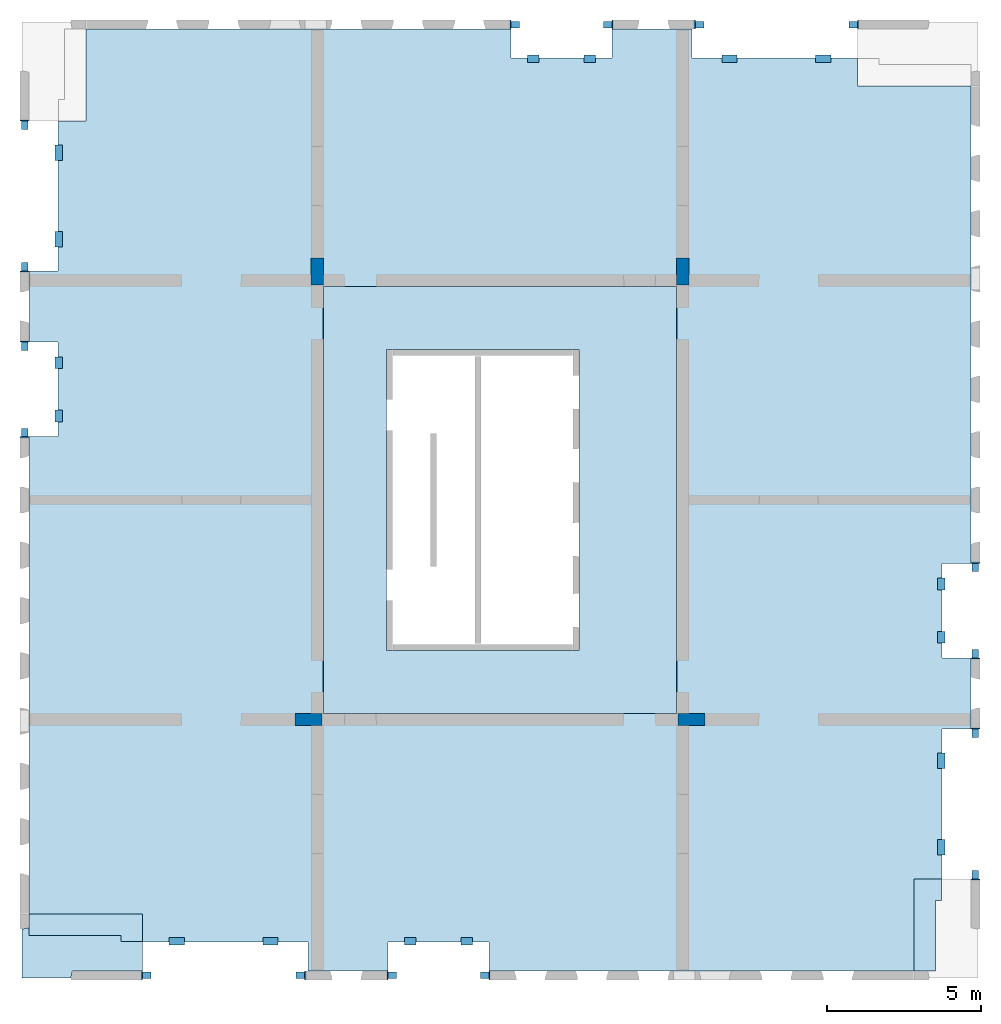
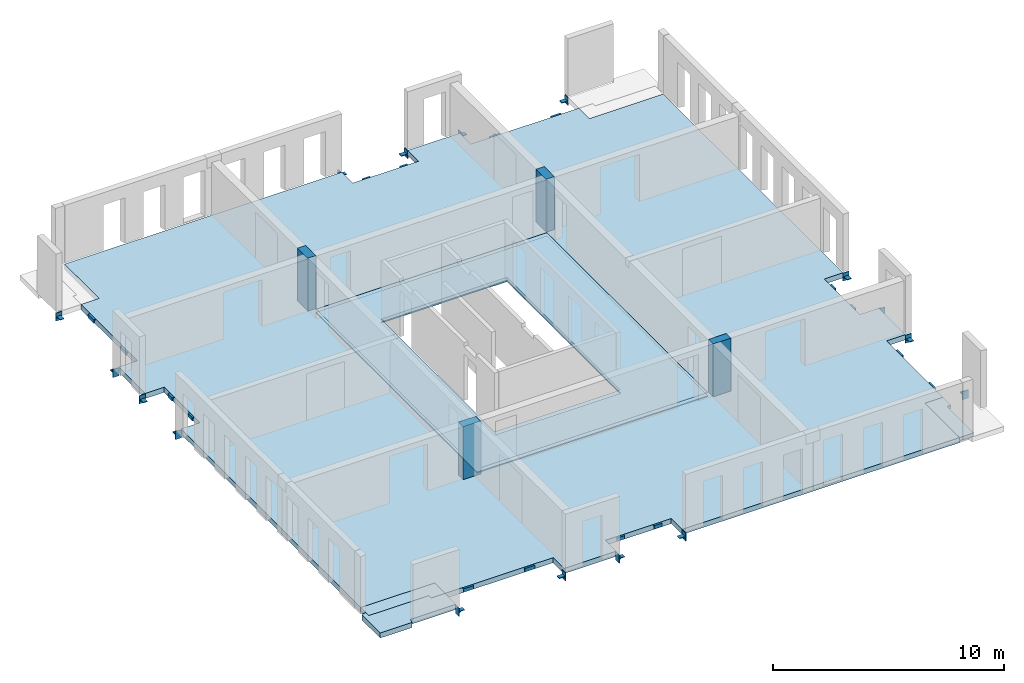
# One storey, part 1 of 4: 32 beams, 6 slabs, 4 columns, 3 openings.
"""IFC2X3 building model written with IfcOpenShell, lengths in millimetres."""

from ifc_helpers import new_model, entity, si_unit, converted_unit, derived_unit, direction, frame, frame_2d, origin, origin_2d_with_axis, place, context, subcontext, project, spatial, polyline, rectangle, outline, extrude, source, transform, mapped, material, layer, layer_set, layer_usage, type_object, type_shapes, element, save


model = new_model("IFC2X3")

# Units and contexts
model_context = context("Model", 3, precision=0.01, world=origin(), true_north=direction((6.12303176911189e-17, 1.0)))
body_context = subcontext(model_context, "Body", "Model", "MODEL_VIEW")
ifc_project = project(units=[si_unit("LENGTHUNIT", "METRE", prefix="MILLI"), si_unit("AREAUNIT", "SQUARE_METRE"), si_unit("VOLUMEUNIT", "CUBIC_METRE"), converted_unit("PLANEANGLEUNIT", "DEGREE", entity("IfcRatioMeasure", 0.0174532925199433), si_unit("PLANEANGLEUNIT", "RADIAN"), dimensions=[0, 0, 0, 0, 0, 0, 0]), si_unit("MASSUNIT", "GRAM", prefix="KILO"), derived_unit("MASSDENSITYUNIT", [(si_unit("MASSUNIT", "GRAM", prefix="KILO"), 1), (si_unit("LENGTHUNIT", "METRE"), -3)]), si_unit("TIMEUNIT", "SECOND"), si_unit("FREQUENCYUNIT", "HERTZ"), si_unit("THERMODYNAMICTEMPERATUREUNIT", "DEGREE_CELSIUS"), derived_unit("THERMALTRANSMITTANCEUNIT", [(si_unit("MASSUNIT", "GRAM", prefix="KILO"), 1), (si_unit("THERMODYNAMICTEMPERATUREUNIT", "KELVIN"), -1), (si_unit("TIMEUNIT", "SECOND"), -3)]), derived_unit("VOLUMETRICFLOWRATEUNIT", [(si_unit("LENGTHUNIT", "METRE"), 3), (si_unit("TIMEUNIT", "SECOND"), -1)]), si_unit("ELECTRICCURRENTUNIT", "AMPERE"), si_unit("ELECTRICVOLTAGEUNIT", "VOLT"), si_unit("POWERUNIT", "WATT"), si_unit("FORCEUNIT", "NEWTON", prefix="KILO"), si_unit("ILLUMINANCEUNIT", "LUX"), si_unit("LUMINOUSFLUXUNIT", "LUMEN"), si_unit("LUMINOUSINTENSITYUNIT", "CANDELA"), derived_unit("USERDEFINED", [(si_unit("MASSUNIT", "GRAM", prefix="KILO"), -1), (si_unit("LENGTHUNIT", "METRE"), -2), (si_unit("TIMEUNIT", "SECOND"), 3), (si_unit("LUMINOUSFLUXUNIT", "LUMEN"), 1)]), derived_unit("LINEARVELOCITYUNIT", [(si_unit("LENGTHUNIT", "METRE"), 1), (si_unit("TIMEUNIT", "SECOND"), -1)]), si_unit("PRESSUREUNIT", "PASCAL"), derived_unit("USERDEFINED", [(si_unit("LENGTHUNIT", "METRE"), -2), (si_unit("MASSUNIT", "GRAM", prefix="KILO"), 1), (si_unit("TIMEUNIT", "SECOND"), -2)])], contexts=[model_context])

# Site, building, storey
site_placement = place(None, origin())
site = spatial("IfcSite", under=ifc_project, at=site_placement, Name="Default", CompositionType="ELEMENT")
building_placement = place(site_placement, origin())
building = spatial("IfcBuilding", under=site, at=building_placement, Name="niet gebruiken", CompositionType="ELEMENT")
storey_placement = place(building_placement, frame((0.0, 0.0, 66960.0)))
storey = spatial("IfcBuildingStorey", under=building, at=storey_placement, Name="21 eenentwintigste verdieping", CompositionType="ELEMENT", Elevation=66960.0000000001)

# Columns
ifc_material_1 = material(Name="NLRS_f2_beton ihwg")
column_type_1 = type_object("IfcColumnType", Name="400x880", PredefinedType="COLUMN", material=ifc_material_1)
shared_shape_1 = source(origin(), body_context, "Body", "SweptSolid", [
    extrude(rectangle(XDim=879.999999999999, YDim=399.999999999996, at=origin_2d_with_axis()), frame((135800.0, 24940.0, 66870.0), z_axis=(0.0, 0.0, 1.0), x_axis=(0.0, -1.0, 0.0)), (0.0, 0.0, 1.0), 2789.99999999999),
])
type_shapes(column_type_1, [shared_shape_1])
column_1_placement = place(storey_placement, frame((0.0, 0.0, -66960.0)))
element("IfcColumn", 1, at=column_1_placement, inside=storey, type_object=column_type_1, material=ifc_material_1, Name="NLRS_28.11_SCO_TLB_beton kolom ihwg_gen:400x880", ObjectType="400x880", context=body_context, shape_type="MappedRepresentation", body=[
    mapped(shared_shape_1, transform((0.0, 0.0, 0.0), scale=1.0)),
])
column_type_2 = type_object("IfcColumnType", Name="400x880", PredefinedType="COLUMN", material=ifc_material_1)
shared_shape_2 = source(origin(), body_context, "Body", "SweptSolid", [
    extrude(rectangle(XDim=879.999999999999, YDim=399.999999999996, at=origin_2d_with_axis()), frame((147700.0, 24940.0, 66870.0), z_axis=(0.0, 0.0, 1.0), x_axis=(0.0, -1.0, 0.0)), (0.0, 0.0, 1.0), 2789.99999999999),
])
type_shapes(column_type_2, [shared_shape_2])
column_2_placement = place(storey_placement, frame((0.0, 0.0, -66960.0)))
element("IfcColumn", 2, at=column_2_placement, inside=storey, type_object=column_type_2, material=ifc_material_1, Name="NLRS_28.11_SCO_TLB_beton kolom ihwg_gen:400x880", ObjectType="400x880", context=body_context, shape_type="MappedRepresentation", body=[
    mapped(shared_shape_2, transform((0.0, 0.0, 0.0), scale=1.0)),
])
column_type_3 = type_object("IfcColumnType", Name="400x880", PredefinedType="COLUMN", material=ifc_material_1)
shared_shape_3 = source(origin(), body_context, "Body", "SweptSolid", [
    extrude(rectangle(XDim=400.000000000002, YDim=880.000000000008, at=origin_2d_with_axis()), frame((135508.750788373, 10350.0, 66870.0), z_axis=(0.0, 0.0, 1.0), x_axis=(0.0, -1.0, 0.0)), (0.0, 0.0, 1.0), 2789.99999999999),
])
type_shapes(column_type_3, [shared_shape_3])
column_3_placement = place(storey_placement, frame((0.0, 0.0, -66960.0)))
element("IfcColumn", 3, at=column_3_placement, inside=storey, type_object=column_type_3, material=ifc_material_1, Name="NLRS_28.11_SCO_TLB_beton kolom ihwg_gen:400x880", ObjectType="400x880", context=body_context, shape_type="MappedRepresentation", body=[
    mapped(shared_shape_3, transform((0.0, 0.0, 0.0), scale=1.0)),
])
column_type_4 = type_object("IfcColumnType", Name="400x880", PredefinedType="COLUMN", material=ifc_material_1)
shared_shape_4 = source(origin(), body_context, "Body", "SweptSolid", [
    extrude(rectangle(XDim=400.000000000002, YDim=880.000000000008, at=origin_2d_with_axis()), frame((147990.0, 10350.0, 66870.0), z_axis=(0.0, 0.0, 1.0), x_axis=(0.0, -1.0, 0.0)), (0.0, 0.0, 1.0), 2789.99999999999),
])
type_shapes(column_type_4, [shared_shape_4])
column_4_placement = place(storey_placement, frame((0.0, 0.0, -66960.0)))
element("IfcColumn", 4, at=column_4_placement, inside=storey, type_object=column_type_4, material=ifc_material_1, Name="NLRS_28.11_SCO_TLB_beton kolom ihwg_gen:400x880", ObjectType="400x880", context=body_context, shape_type="MappedRepresentation", body=[
    mapped(shared_shape_4, transform((0.0, 0.0, 0.0), scale=1.0)),
])

# Beams
ifc_material_2 = material(Name="NLRS_h2_staal")
beam_type_1 = type_object("IfcBeamType", Name="NLRS_28.11_SF_WPB_stalen schoen 4_gen", PredefinedType="BEAM", material=ifc_material_2)
shared_shape_5 = source(origin(), body_context, "Body", "SweptSolid", [
    extrude(outline(polyline([(-69.4999999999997, -23.0), (8.49999999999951, -23.0), (30.5, -1.0), (30.5000000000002, 47.0), (-69.4999999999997, -23.0)])), frame((-105.0, -109.499999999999, -58.0), z_axis=(1.0, 0.0, 0.0), x_axis=(0.0, -1.0, 0.0)), (0.0, 0.0, 1.0), 35.0),
    extrude(outline(polyline([(-69.4999999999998, -23.0), (8.49999999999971, -23.0), (30.5, -1.0), (30.5000000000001, 47.0), (-69.4999999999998, -23.0)])), frame((70.0, -109.499999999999, -58.0), z_axis=(1.0, 0.0, 0.0), x_axis=(0.0, -1.0, 0.0)), (0.0, 0.0, 1.0), 35.0),
    extrude(rectangle(XDim=300.0, YDim=34.9999999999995, at=origin_2d_with_axis()), frame((0.0, -157.5, -230.0), z_axis=(0.0, 0.0, 1.0), x_axis=(-1.0, 0.0, 0.0)), (0.0, 0.0, 1.0), 420.0),
    extrude(rectangle(XDim=210.000000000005, YDim=274.999999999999, at=origin_2d_with_axis()), frame((0.0, -2.4999999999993, -35.0), z_axis=(0.0, 0.0, 1.0), x_axis=(-1.0, 0.0, 0.0)), (0.0, 0.0, 1.0), 35.0),
])
type_shapes(beam_type_1, [shared_shape_5])
for number, where, z_axis, x_axis, name in (
    (5, (138250.0, 2020.0, -310.0), (0.0, 0.0, 1.0), (0.0, -1.0, 0.0), "NLRS_28.11_SF_WPB_stalen schoen 4_gen:NLRS_28.11_SF_WPB_stalen schoen 4_gen"),
    (6, (141250.0, 2020.0, -310.0), (0.0, 0.0, 1.0), (0.0, 1.0, 0.0), "NLRS_28.11_SF_WPB_stalen schoen 4_gen:NLRS_28.11_SF_WPB_stalen schoen 4_gen"),
):
    element("IfcBeam", number, at=place(storey_placement, frame(where, z_axis=z_axis, x_axis=x_axis)), inside=storey, type_object=beam_type_1, material=ifc_material_2, Name=name, ObjectType="NLRS_28.11_SF_WPB_stalen schoen 4_gen", context=body_context, shape_type="MappedRepresentation", body=[
        mapped(shared_shape_5, transform((0.0, 0.0, 0.0), scale=1.0)),
    ])
beam_1_placement = place(storey_placement, frame((157230.0, 12500.0, -310.0)))
element("IfcBeam", 7, at=beam_1_placement, inside=storey, type_object=beam_type_1, material=ifc_material_2, Name="NLRS_28.11_SF_WPB_stalen schoen 4_gen:NLRS_28.11_SF_WPB_stalen schoen 4_gen", ObjectType="NLRS_28.11_SF_WPB_stalen schoen 4_gen", context=body_context, shape_type="MappedRepresentation", body=[
    mapped(shared_shape_5, transform((0.0, 0.0, 0.0), scale=1.0)),
])
for number, where, z_axis, x_axis, name in (
    (8, (157230.0, 15300.0, -310.0), (0.0, 0.0, 1.0), (-1.0, 0.0, 0.0), "NLRS_28.11_SF_WPB_stalen schoen 4_gen:NLRS_28.11_SF_WPB_stalen schoen 4_gen"),
    (9, (145250.0, 32980.0, -310.0), (0.0, 0.0, 1.0), (0.0, 1.0, 0.0), "NLRS_28.11_SF_WPB_stalen schoen 4_gen:NLRS_28.11_SF_WPB_stalen schoen 4_gen"),
    (10, (142250.0, 32980.0, -310.0), (0.0, 0.0, 1.0), (0.0, -1.0, 0.0), "NLRS_28.11_SF_WPB_stalen schoen 4_gen:NLRS_28.11_SF_WPB_stalen schoen 4_gen"),
    (11, (126270.0, 22500.0, -310.0), (0.0, 0.0, 1.0), (-1.0, 0.0, 0.0), "NLRS_28.11_SF_WPB_stalen schoen 4_gen:NLRS_28.11_SF_WPB_stalen schoen 4_gen"),
):
    element("IfcBeam", number, at=place(storey_placement, frame(where, z_axis=z_axis, x_axis=x_axis)), inside=storey, type_object=beam_type_1, material=ifc_material_2, Name=name, ObjectType="NLRS_28.11_SF_WPB_stalen schoen 4_gen", context=body_context, shape_type="MappedRepresentation", body=[
        mapped(shared_shape_5, transform((0.0, 0.0, 0.0), scale=1.0)),
    ])
beam_2_placement = place(storey_placement, frame((126270.0, 19700.0, -310.0)))
element("IfcBeam", 12, at=beam_2_placement, inside=storey, type_object=beam_type_1, material=ifc_material_2, Name="NLRS_28.11_SF_WPB_stalen schoen 4_gen:NLRS_28.11_SF_WPB_stalen schoen 4_gen", ObjectType="NLRS_28.11_SF_WPB_stalen schoen 4_gen", context=body_context, shape_type="MappedRepresentation", body=[
    mapped(shared_shape_5, transform((0.0, 0.0, 0.0), scale=1.0)),
])
beam_type_2 = type_object("IfcBeamType", Name="NLRS_28.11_SF_WPB_stalen schoen 3_gen", PredefinedType="BEAM", material=ifc_material_2)
shared_shape_6 = source(origin(), body_context, "Body", "SweptSolid", [
    extrude(outline(polyline([(-69.4999999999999, -23.0), (8.49999999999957, -23.0), (30.5000000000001, -1.0), (30.5000000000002, 47.0), (-69.4999999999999, -23.0)])), frame((-105.0, -109.499999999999, -63.0), z_axis=(1.0, 0.0, 0.0), x_axis=(0.0, -1.0, 0.0)), (0.0, 0.0, 1.0), 40.0),
    extrude(outline(polyline([(-69.4999999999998, -23.0), (8.49999999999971, -23.0), (30.5, -1.0), (30.5000000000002, 47.0), (-69.4999999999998, -23.0)])), frame((65.0, -109.499999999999, -63.0), z_axis=(1.0, 0.0, 0.0), x_axis=(0.0, -1.0, 0.0)), (0.0, 0.0, 1.0), 40.0),
    extrude(rectangle(XDim=300.0, YDim=39.9999999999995, at=origin_2d_with_axis()), frame((0.0, -160.0, -230.0), z_axis=(0.0, 0.0, 1.0), x_axis=(-1.0, 0.0, 0.0)), (0.0, 0.0, 1.0), 420.0),
    extrude(rectangle(XDim=210.000000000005, YDim=274.999999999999, at=origin_2d_with_axis()), frame((0.0, -2.49999999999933, -40.0), z_axis=(0.0, 0.0, 1.0), x_axis=(-1.0, 0.0, 0.0)), (0.0, 0.0, 1.0), 39.9999999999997),
])
type_shapes(beam_type_2, [shared_shape_6])
for number, where, z_axis, x_axis, name in (
    (13, (135250.0, 2020.0, -310.0), (0.0, 0.0, 1.0), (0.0, 1.0, 0.0), "NLRS_28.11_SF_WPB_stalen schoen 3_gen:NLRS_28.11_SF_WPB_stalen schoen 3_gen"),
    (14, (130250.0, 2020.0, -310.0), (0.0, 0.0, 1.0), (0.0, -1.0, 0.0), "NLRS_28.11_SF_WPB_stalen schoen 3_gen:NLRS_28.11_SF_WPB_stalen schoen 3_gen"),
    (15, (157230.0, 9900.0, -310.0), (0.0, 0.0, 1.0), (-1.0, 0.0, 0.0), "NLRS_28.11_SF_WPB_stalen schoen 3_gen:NLRS_28.11_SF_WPB_stalen schoen 3_gen"),
):
    element("IfcBeam", number, at=place(storey_placement, frame(where, z_axis=z_axis, x_axis=x_axis)), inside=storey, type_object=beam_type_2, material=ifc_material_2, Name=name, ObjectType="NLRS_28.11_SF_WPB_stalen schoen 3_gen", context=body_context, shape_type="MappedRepresentation", body=[
        mapped(shared_shape_6, transform((0.0, 0.0, 0.0), scale=1.0)),
    ])
beam_3_placement = place(storey_placement, frame((157230.0, 5300.0, -310.0)))
element("IfcBeam", 16, at=beam_3_placement, inside=storey, type_object=beam_type_2, material=ifc_material_2, Name="NLRS_28.11_SF_WPB_stalen schoen 3_gen:NLRS_28.11_SF_WPB_stalen schoen 3_gen", ObjectType="NLRS_28.11_SF_WPB_stalen schoen 3_gen", context=body_context, shape_type="MappedRepresentation", body=[
    mapped(shared_shape_6, transform((0.0, 0.0, 0.0), scale=1.0)),
])
for number, where, z_axis, x_axis, name in (
    (17, (148250.0, 32980.0, -310.0), (0.0, 0.0, 1.0), (0.0, -1.0, 0.0), "NLRS_28.11_SF_WPB_stalen schoen 3_gen:NLRS_28.11_SF_WPB_stalen schoen 3_gen"),
    (18, (153250.0, 32980.0, -310.0), (0.0, 0.0, 1.0), (0.0, 1.0, 0.0), "NLRS_28.11_SF_WPB_stalen schoen 3_gen:NLRS_28.11_SF_WPB_stalen schoen 3_gen"),
):
    element("IfcBeam", number, at=place(storey_placement, frame(where, z_axis=z_axis, x_axis=x_axis)), inside=storey, type_object=beam_type_2, material=ifc_material_2, Name=name, ObjectType="NLRS_28.11_SF_WPB_stalen schoen 3_gen", context=body_context, shape_type="MappedRepresentation", body=[
        mapped(shared_shape_6, transform((0.0, 0.0, 0.0), scale=1.0)),
    ])
beam_4_placement = place(storey_placement, frame((126270.0, 25100.0, -310.0)))
element("IfcBeam", 19, at=beam_4_placement, inside=storey, type_object=beam_type_2, material=ifc_material_2, Name="NLRS_28.11_SF_WPB_stalen schoen 3_gen:NLRS_28.11_SF_WPB_stalen schoen 3_gen", ObjectType="NLRS_28.11_SF_WPB_stalen schoen 3_gen", context=body_context, shape_type="MappedRepresentation", body=[
    mapped(shared_shape_6, transform((0.0, 0.0, 0.0), scale=1.0)),
])
beam_5_placement = place(storey_placement, frame((126270.0, 29700.0, -310.0), z_axis=(0.0, 0.0, 1.0), x_axis=(-1.0, 0.0, 0.0)))
element("IfcBeam", 20, at=beam_5_placement, inside=storey, type_object=beam_type_2, material=ifc_material_2, Name="NLRS_28.11_SF_WPB_stalen schoen 3_gen:NLRS_28.11_SF_WPB_stalen schoen 3_gen", ObjectType="NLRS_28.11_SF_WPB_stalen schoen 3_gen", context=body_context, shape_type="MappedRepresentation", body=[
    mapped(shared_shape_6, transform((0.0, 0.0, 0.0), scale=1.0)),
])
beam_type_3 = type_object("IfcBeamType", Name="NLRS_28.11_SF_WPB_stalen handje 7 lang 375_gen:NLRS_28.11_SF_WPB_stalen handje 7_gen", PredefinedType="BEAM")
for number, where, z_axis, x_axis, name in (
    (21, (140862.631597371, 3015.23611279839, -93.0), (0.0, 0.0, 1.0), (-1.0, 0.0, 0.0), "NLRS_28.11_SF_WPB_stalen handje 7 lang 375_gen:NLRS_28.11_SF_WPB_stalen handje 7_gen"),
    (22, (139012.628555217, 3015.23611279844, -93.0), (0.0, 0.0, 1.0), (-1.0, 0.0, 0.0), "NLRS_28.11_SF_WPB_stalen handje 7 lang 375_gen:NLRS_28.11_SF_WPB_stalen handje 7_gen"),
):
    element("IfcBeam", number, at=place(storey_placement, frame(where, z_axis=z_axis, x_axis=x_axis)), inside=storey, type_object=beam_type_3, material=ifc_material_2, Name=name, ObjectType="NLRS_28.11_SF_WPB_stalen handje 7 lang 375_gen:NLRS_28.11_SF_WPB_stalen handje 7_gen", context=body_context, shape_type="SweptSolid", body=[
        extrude(outline(polyline([(-70.6666666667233, -153.333333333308), (-40.6666666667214, -153.333333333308), (-40.6666666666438, 61.6666666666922), (111.333333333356, 61.6666666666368), (111.333333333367, 91.6666666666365), (-70.6666666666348, 91.6666666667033), (-70.6666666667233, -153.333333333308)])), frame((0.0, -91.6666666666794, -70.6666666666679), z_axis=(1.0, 0.0, 0.0), x_axis=(0.0, 0.0, -1.0)), (0.0, 0.0, 1.0), 375.000000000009),
    ])
for number, where, z_axis, x_axis, name in (
    (23, (134525.131597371, 3015.23611279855, -93.0), (0.0, 0.0, 1.0), (-1.0, 0.0, 0.0), "NLRS_28.11_SF_WPB_stalen handje 7 lang 375_gen:NLRS_28.11_SF_WPB_stalen handje 7_gen"),
    (24, (131475.128555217, 3015.23611279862, -93.0), (0.0, 0.0, 1.0), (-1.0, 0.0, 0.0), "NLRS_28.11_SF_WPB_stalen handje 7 lang 375_gen:NLRS_28.11_SF_WPB_stalen handje 7_gen"),
):
    element("IfcBeam", number, at=place(storey_placement, frame(where, z_axis=z_axis, x_axis=x_axis)), inside=storey, type_object=beam_type_3, material=ifc_material_2, Name=name, ObjectType="NLRS_28.11_SF_WPB_stalen handje 7 lang 375_gen:NLRS_28.11_SF_WPB_stalen handje 7_gen", context=body_context, shape_type="SweptSolid", body=[
        extrude(outline(polyline([(-70.6666666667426, -153.333333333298), (-40.6666666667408, -153.333333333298), (-40.666666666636, 61.6666666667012), (111.333333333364, 61.6666666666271), (111.333333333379, 91.6666666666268), (-70.6666666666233, 91.666666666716), (-70.6666666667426, -153.333333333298)])), frame((0.0, -91.6666666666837, -70.6666666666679), z_axis=(1.0, 0.0, 0.0), x_axis=(0.0, 0.0, -1.0)), (0.0, 0.0, 1.0), 500.000000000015),
    ])
beam_6_placement = place(storey_placement, frame((156235.125015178, 9255.24886461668, -93.0), z_axis=(0.0, 0.0, 1.0), x_axis=(0.0, -1.0, 0.0)))
element("IfcBeam", 25, at=beam_6_placement, inside=storey, type_object=beam_type_3, material=ifc_material_2, Name="NLRS_28.11_SF_WPB_stalen handje 7 lang 375_gen:NLRS_28.11_SF_WPB_stalen handje 7_gen", ObjectType="NLRS_28.11_SF_WPB_stalen handje 7 lang 375_gen:NLRS_28.11_SF_WPB_stalen handje 7_gen", context=body_context, shape_type="SweptSolid", body=[
    extrude(outline(polyline([(-70.6666666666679, -153.33333333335), (-40.6666666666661, -153.33333333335), (-40.6666666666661, 61.6666666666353), (111.333333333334, 61.6666666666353), (111.333333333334, 91.6666666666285), (-70.6666666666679, 91.6666666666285), (-70.6666666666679, -153.33333333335)])), frame((0.0, -91.6666666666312, -70.6666666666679), z_axis=(1.0, 0.0, 0.0), x_axis=(0.0, 0.0, -1.0)), (0.0, 0.0, 1.0), 500.000000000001),
])
beam_7_placement = place(storey_placement, frame((156235.125015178, 6445.24582437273, -93.0), z_axis=(0.0, 0.0, 1.0), x_axis=(0.0, -1.0, 0.0)))
element("IfcBeam", 26, at=beam_7_placement, inside=storey, type_object=beam_type_3, material=ifc_material_2, Name="NLRS_28.11_SF_WPB_stalen handje 7 lang 375_gen:NLRS_28.11_SF_WPB_stalen handje 7_gen", ObjectType="NLRS_28.11_SF_WPB_stalen handje 7 lang 375_gen:NLRS_28.11_SF_WPB_stalen handje 7_gen", context=body_context, shape_type="SweptSolid", body=[
    extrude(outline(polyline([(-70.6666666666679, -153.33333333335), (-40.6666666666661, -153.33333333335), (-40.6666666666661, 61.6666666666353), (111.333333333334, 61.6666666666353), (111.333333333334, 91.6666666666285), (-70.6666666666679, 91.6666666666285), (-70.6666666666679, -153.33333333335)])), frame((0.0, -91.6666666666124, -70.6666666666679), z_axis=(1.0, 0.0, 0.0), x_axis=(0.0, 0.0, -1.0)), (0.0, 0.0, 1.0), 500.000000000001),
])
for number, where, name in (
    (27, (142637.368402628, 31984.7638872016, -93.0), "NLRS_28.11_SF_WPB_stalen handje 7 lang 375_gen:NLRS_28.11_SF_WPB_stalen handje 7_gen"),
    (28, (144487.371444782, 31984.7638872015, -93.0), "NLRS_28.11_SF_WPB_stalen handje 7 lang 375_gen:NLRS_28.11_SF_WPB_stalen handje 7_gen"),
):
    element("IfcBeam", number, at=place(storey_placement, frame(where)), inside=storey, type_object=beam_type_3, material=ifc_material_2, Name=name, ObjectType="NLRS_28.11_SF_WPB_stalen handje 7 lang 375_gen:NLRS_28.11_SF_WPB_stalen handje 7_gen", context=body_context, shape_type="SweptSolid", body=[
        extrude(outline(polyline([(-70.6666666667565, -153.333333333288), (-40.6666666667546, -153.333333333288), (-40.6666666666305, 61.6666666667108), (111.33333333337, 61.666666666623), (111.333333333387, 91.6666666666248), (-70.666666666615, 91.6666666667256), (-70.6666666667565, -153.333333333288)])), frame((0.0, -91.6666666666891, -70.6666666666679), z_axis=(1.0, 0.0, 0.0), x_axis=(0.0, 0.0, -1.0)), (0.0, 0.0, 1.0), 375.000000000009),
    ])
for number, where, name in (
    (29, (148974.868402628, 31984.7638872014, -93.0), "NLRS_28.11_SF_WPB_stalen handje 7 lang 375_gen:NLRS_28.11_SF_WPB_stalen handje 7_gen"),
    (30, (152024.871444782, 31984.7638872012, -93.0), "NLRS_28.11_SF_WPB_stalen handje 7 lang 375_gen:NLRS_28.11_SF_WPB_stalen handje 7_gen"),
):
    element("IfcBeam", number, at=place(storey_placement, frame(where)), inside=storey, type_object=beam_type_3, material=ifc_material_2, Name=name, ObjectType="NLRS_28.11_SF_WPB_stalen handje 7 lang 375_gen:NLRS_28.11_SF_WPB_stalen handje 7_gen", context=body_context, shape_type="SweptSolid", body=[
        extrude(outline(polyline([(-70.6666666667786, -153.333333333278), (-40.6666666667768, -153.333333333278), (-40.6666666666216, 61.6666666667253), (111.333333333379, 61.6666666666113), (111.3333333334, 91.6666666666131), (-70.6666666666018, 91.6666666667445), (-70.6666666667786, -153.333333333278)])), frame((0.0, -91.6666666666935, -70.6666666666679), z_axis=(1.0, 0.0, 0.0), x_axis=(0.0, 0.0, -1.0)), (0.0, 0.0, 1.0), 500.000000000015),
    ])
beam_8_placement = place(storey_placement, frame((127264.874984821, 25744.7511353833, -93.0), z_axis=(0.0, 0.0, 1.0), x_axis=(0.0, 1.0, 0.0)))
element("IfcBeam", 31, at=beam_8_placement, inside=storey, type_object=beam_type_3, material=ifc_material_2, Name="NLRS_28.11_SF_WPB_stalen handje 7 lang 375_gen:NLRS_28.11_SF_WPB_stalen handje 7_gen", ObjectType="NLRS_28.11_SF_WPB_stalen handje 7 lang 375_gen:NLRS_28.11_SF_WPB_stalen handje 7_gen", context=body_context, shape_type="SweptSolid", body=[
    extrude(outline(polyline([(-70.6666666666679, -153.333333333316), (-40.6666666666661, -153.333333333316), (-40.6666666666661, 61.6666666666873), (111.333333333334, 61.66666666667), (111.333333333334, 91.6666666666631), (-70.6666666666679, 91.6666666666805), (-70.6666666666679, -153.333333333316)])), frame((0.0, -91.6666666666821, -70.6666666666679), z_axis=(1.0, 0.0, 0.0), x_axis=(0.0, 0.0, -1.0)), (0.0, 0.0, 1.0), 500.000000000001),
])
beam_9_placement = place(storey_placement, frame((127264.874984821, 28554.7541756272, -93.0), z_axis=(0.0, 0.0, 1.0), x_axis=(0.0, 1.0, 0.0)))
element("IfcBeam", 32, at=beam_9_placement, inside=storey, type_object=beam_type_3, material=ifc_material_2, Name="NLRS_28.11_SF_WPB_stalen handje 7 lang 375_gen:NLRS_28.11_SF_WPB_stalen handje 7_gen", ObjectType="NLRS_28.11_SF_WPB_stalen handje 7 lang 375_gen:NLRS_28.11_SF_WPB_stalen handje 7_gen", context=body_context, shape_type="SweptSolid", body=[
    extrude(outline(polyline([(-70.6666666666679, -153.33333333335), (-40.6666666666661, -153.33333333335), (-40.6666666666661, 61.6666666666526), (111.333333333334, 61.6666666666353), (111.333333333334, 91.6666666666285), (-70.6666666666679, 91.6666666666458), (-70.6666666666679, -153.33333333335)])), frame((0.0, -91.6666666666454, -70.6666666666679), z_axis=(1.0, 0.0, 0.0), x_axis=(0.0, 0.0, -1.0)), (0.0, 0.0, 1.0), 500.000000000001),
])
beam_10_placement = place(storey_placement, frame((156235.0, 14952.5097115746, -93.0), z_axis=(0.0, 0.0, 1.0), x_axis=(0.0, -1.0, 0.0)))
element("IfcBeam", 33, at=beam_10_placement, inside=storey, type_object=beam_type_3, material=ifc_material_2, Name="NLRS_28.11_SF_WPB_stalen handje 7 lang 375_gen:NLRS_28.11_SF_WPB_stalen handje 7_gen", ObjectType="NLRS_28.11_SF_WPB_stalen handje 7 lang 375_gen:NLRS_28.11_SF_WPB_stalen handje 7_gen", context=body_context, shape_type="SweptSolid", body=[
    extrude(outline(polyline([(-70.6666666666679, -153.333333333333), (-40.6666666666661, -153.333333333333), (-40.6666666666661, 61.66666666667), (111.333333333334, 61.66666666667), (111.333333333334, 91.6666666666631), (-70.6666666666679, 91.6666666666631), (-70.6666666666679, -153.333333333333)])), frame((0.0, -91.6666666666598, -70.6666666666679), z_axis=(1.0, 0.0, 0.0), x_axis=(0.0, 0.0, -1.0)), (0.0, 0.0, 1.0), 375.000000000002),
])
beam_11_placement = place(storey_placement, frame((156235.0, 13222.5097115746, -93.0), z_axis=(0.0, 0.0, 1.0), x_axis=(0.0, -1.0, 0.0)))
element("IfcBeam", 34, at=beam_11_placement, inside=storey, type_object=beam_type_3, material=ifc_material_2, Name="NLRS_28.11_SF_WPB_stalen handje 7 lang 375_gen:NLRS_28.11_SF_WPB_stalen handje 7_gen", ObjectType="NLRS_28.11_SF_WPB_stalen handje 7 lang 375_gen:NLRS_28.11_SF_WPB_stalen handje 7_gen", context=body_context, shape_type="SweptSolid", body=[
    extrude(outline(polyline([(-70.6666666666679, -153.333333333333), (-40.6666666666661, -153.333333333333), (-40.6666666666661, 61.66666666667), (111.333333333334, 61.66666666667), (111.333333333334, 91.6666666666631), (-70.6666666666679, 91.6666666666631), (-70.6666666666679, -153.333333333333)])), frame((0.0, -91.6666666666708, -70.6666666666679), z_axis=(1.0, 0.0, 0.0), x_axis=(0.0, 0.0, -1.0)), (0.0, 0.0, 1.0), 375.000000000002),
])
beam_12_placement = place(storey_placement, frame((127265.0, 20047.4902884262, -93.0), z_axis=(0.0, 0.0, 1.0), x_axis=(0.0, 1.0, 0.0)))
element("IfcBeam", 35, at=beam_12_placement, inside=storey, type_object=beam_type_3, material=ifc_material_2, Name="NLRS_28.11_SF_WPB_stalen handje 7 lang 375_gen:NLRS_28.11_SF_WPB_stalen handje 7_gen", ObjectType="NLRS_28.11_SF_WPB_stalen handje 7 lang 375_gen:NLRS_28.11_SF_WPB_stalen handje 7_gen", context=body_context, shape_type="SweptSolid", body=[
    extrude(outline(polyline([(-70.6666666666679, -153.333333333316), (-40.6666666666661, -153.333333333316), (-40.6666666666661, 61.6666666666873), (111.333333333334, 61.66666666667), (111.333333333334, 91.6666666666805), (-70.6666666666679, 91.6666666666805), (-70.6666666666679, -153.333333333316)])), frame((0.0, -91.6666666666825, -70.6666666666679), z_axis=(1.0, 0.0, 0.0), x_axis=(0.0, 0.0, -1.0)), (0.0, 0.0, 1.0), 375.000000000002),
])
beam_13_placement = place(storey_placement, frame((127265.0, 21777.4902884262, -93.0), z_axis=(0.0, 0.0, 1.0), x_axis=(0.0, 1.0, 0.0)))
element("IfcBeam", 36, at=beam_13_placement, inside=storey, type_object=beam_type_3, material=ifc_material_2, Name="NLRS_28.11_SF_WPB_stalen handje 7 lang 375_gen:NLRS_28.11_SF_WPB_stalen handje 7_gen", ObjectType="NLRS_28.11_SF_WPB_stalen handje 7 lang 375_gen:NLRS_28.11_SF_WPB_stalen handje 7_gen", context=body_context, shape_type="SweptSolid", body=[
    extrude(outline(polyline([(-70.6666666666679, -153.33333333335), (-40.6666666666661, -153.33333333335), (-40.6666666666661, 61.6666666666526), (111.333333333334, 61.6666666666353), (111.333333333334, 91.6666666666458), (-70.6666666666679, 91.6666666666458), (-70.6666666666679, -153.33333333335)])), frame((0.0, -91.6666666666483, -70.6666666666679), z_axis=(1.0, 0.0, 0.0), x_axis=(0.0, 0.0, -1.0)), (0.0, 0.0, 1.0), 375.000000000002),
])

# Slabs
ifc_layer_1 = layer(ifc_material_1, 170.0)
ifc_layer_set_1 = layer_set([ifc_layer_1], Name="Floor:NLRS_23.21_FL_beton ihwg d=170_gen")
ifc_layer_usage_1 = layer_usage(ifc_layer_set_1, "AXIS3", "POSITIVE", 0.0)
slab_1_placement = place(storey_placement, origin())
element("IfcSlab", 37, at=slab_1_placement, inside=storey, material=ifc_layer_usage_1, Name="Floor:NLRS_23.21_FL_beton ihwg d=170_gen", ObjectType="Floor:NLRS_23.21_FL_beton ihwg d=170_gen", PredefinedType="FLOOR", context=body_context, shape_type="SweptSolid", body=[
    extrude(outline(polyline([(-1760.0, -533.33333333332), (1230.0, -533.33333333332), (1230.0, 366.666666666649), (530.0, 366.666666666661), (530.0, 166.666666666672), (-1760.0, 166.666666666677), (-1760.0, -533.33333333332)])), frame((155763.333333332, 3930.0, -90.0), z_axis=(0.0, 0.0, -1.0), x_axis=(0.0, 1.0, 0.0)), (0.0, 0.0, 1.0), 169.999999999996),
])
ifc_material_3 = material(Name="NLRS_f2_beton prefab")
ifc_layer_2 = layer(ifc_material_3, 270.0)
ifc_layer_set_2 = layer_set([ifc_layer_2], Name="Floor:NLRS_23.22_FL_beton prefab d=270 3D element_gen")
ifc_layer_usage_2 = layer_usage(ifc_layer_set_2, "AXIS3", "POSITIVE", 0.0)
slab_2_placement = place(storey_placement, origin())
element("IfcSlab", 38, at=slab_2_placement, inside=storey, material=ifc_layer_usage_2, Name="Floor:NLRS_23.22_FL_beton prefab d=270 3D element_gen", ObjectType="Floor:NLRS_23.22_FL_beton prefab d=270 3D element_gen", PredefinedType="LANDING", context=body_context, shape_type="SweptSolid", body=[
    extrude(outline(polyline([(-982.471394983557, -1442.47139498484), (607.67594043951, -1442.47139498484), (655.152429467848, -1209.47139498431), (1100.52860501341, -1209.47139498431), (1100.52860501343, 2480.5286050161), (-749.471394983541, 2480.5286050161), (-749.471394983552, 195.15242946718), (-982.47139498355, 147.675940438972), (-982.471394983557, -1442.47139498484)])), frame((127629.471394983, 2919.47139499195, -90.0), z_axis=(0.0, 0.0, -1.0), x_axis=(0.0, 1.0, 0.0)), (0.0, 0.0, 1.0), 269.999999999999),
])
ifc_layer_usage_3 = layer_usage(ifc_layer_set_1, "AXIS3", "POSITIVE", 0.0)
slab_3_placement = place(storey_placement, origin())
element("IfcSlab", 39, at=slab_3_placement, inside=storey, material=ifc_layer_usage_3, Name="Floor:NLRS_23.21_FL_beton ihwg d=170_gen", ObjectType="Floor:NLRS_23.21_FL_beton ihwg d=170_gen", PredefinedType="FLOOR", context=body_context, shape_type="SweptSolid", body=[
    extrude(outline(polyline([(-166.666666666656, -2226.66666666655), (533.333333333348, -2226.66666666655), (533.333333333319, 1463.33333333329), (-366.666666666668, 1463.33333333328), (-366.666666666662, 763.333333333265), (-166.666666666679, 763.333333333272), (-166.666666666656, -2226.66666666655)])), frame((128646.666666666, 3486.66666667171, -90.0), z_axis=(0.0, 0.0, -1.0), x_axis=(0.0, 1.0, 0.0)), (0.0, 0.0, 1.0), 169.999999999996),
])

# Slab, opening
ifc_layer_3 = layer(ifc_material_1, 230.0)
ifc_layer_set_3 = layer_set([ifc_layer_3], Name="Floor:NLRS_23.21_FL_vloer=230_gen")
ifc_layer_usage_4 = layer_usage(ifc_layer_set_3, "AXIS3", "POSITIVE", 0.0)
slab_4_placement = place(storey_placement, frame((136000.0, 10549.7638872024, -320.0)))
slab_4 = element("IfcSlab", 40, at=slab_4_placement, inside=storey, material=ifc_layer_usage_4, Name="Floor:NLRS_23.21_FL_vloer=230_gen", ObjectType="Floor:NLRS_23.21_FL_vloer=230_gen", PredefinedType="FLOOR", context=body_context, shape_type="SweptSolid", body=[
    extrude(rectangle(XDim=13900.2361127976, YDim=11500.0, at=frame_2d((0.0, 0.0), x_axis=(0.0, -1.0))), frame((5750.0, 6950.11805639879, 230.0), z_axis=(0.0, 0.0, -1.0), x_axis=(-1.0, 0.0, 0.0)), (0.0, 0.0, 1.0), 230.0),
])
opening_1_placement = place(slab_4_placement, frame((5190.0, 6950.23611279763, 230.0)))
element("IfcOpeningElement", 41, at=opening_1_placement, cuts=slab_4, Name="Floor:NLRS_23.21_FL_vloer=230_gen:2", ObjectType="Opening", context=body_context, shape_type="SweptSolid", body=[
    extrude(rectangle(XDim=9800.0, YDim=6279.99999999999, at=origin_2d_with_axis()), frame((0.0, 0.0, 0.0), z_axis=(0.0, 0.0, -1.0), x_axis=(0.0, -1.0, 0.0)), (0.0, 0.0, 1.0), 230.0),
])

ifc_layer_4 = layer(ifc_material_1, 170.0)
ifc_layer_5 = layer(ifc_material_3, 100.0)
ifc_layer_set_4 = layer_set([ifc_layer_4, ifc_layer_5], Name="Floor:NLRS_23.21_FL_breedplaat d=100/270_gen")
ifc_layer_usage_5 = layer_usage(ifc_layer_set_4, "AXIS3", "POSITIVE", 0.0)
slab_5_placement = place(storey_placement, frame((126420.0, 2170.0, -360.0)))
slab_5 = element("IfcSlab", 42, at=slab_5_placement, inside=storey, material=ifc_layer_usage_5, Name="Floor:NLRS_23.21_FL_breedplaat d=100/270_gen", ObjectType="Floor:NLRS_23.21_FL_breedplaat d=100/270_gen", PredefinedType="FLOOR", context=body_context, shape_type="SweptSolid", body=[
    extrude(outline(polyline([(-360.0, 15330.0), (-360.0, 14385.0), (-3640.0, 14385.0), (-3640.0, 15330.0), (-6250.0, 15330.0), (-6250.0, 14385.0), (-11640.0, 14385.0), (-11640.0, 13480.0), (-15330.0, 13480.0), (-15330.0, -2060.0), (-14385.0, -2060.0), (-14385.0, -5140.0), (-15330.0, -5140.0), (-15330.0, -7450.0), (-14385.0, -7450.0), (-14385.0, -12340.0), (-13480.0, -12340.0), (-13480.0, -15330.0), (360.0, -15330.0), (360.0, -14385.0), (3640.0, -14385.0), (3640.0, -15330.0), (6250.0, -15330.0), (6250.0, -14385.0), (11640.0, -14385.0), (11640.0, -13480.0), (15330.0, -13480.0), (15330.0, 2060.0), (14385.0, 2060.0), (14385.0, 5140.0), (15330.0, 5140.0), (15330.0, 7450.0), (14385.0, 7450.0), (14385.0, 12340.0), (13480.0, 12340.0), (13480.0, 15330.0), (-360.0, 15330.0)])), frame((15330.0, 15330.0, 270.0), z_axis=(0.0, 0.0, -1.0), x_axis=(-1.0, 0.0, 0.0)), (0.0, 0.0, 1.0), 269.999999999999),
])
opening_2_placement = place(slab_5_placement, frame((15330.0, 15330.0, 270.0)))
element("IfcOpeningElement", 43, at=opening_2_placement, cuts=slab_5, Name="Floor:NLRS_23.21_FL_breedplaat d=100/270_gen:2", ObjectType="Opening", context=body_context, shape_type="SweptSolid", body=[
    extrude(rectangle(XDim=13899.9999999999, YDim=11500.0, at=origin_2d_with_axis()), frame((0.0, 0.0, 0.0), z_axis=(0.0, 0.0, -1.0), x_axis=(0.0, -1.0, 0.0)), (0.0, 0.0, 1.0), 269.999999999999),
])

ifc_layer_6 = layer(ifc_material_3, 60.0)
ifc_layer_set_5 = layer_set([ifc_layer_6], Name="Floor:NLRS_23.21_FL_breedplaat d=60_gen")
ifc_layer_usage_6 = layer_usage(ifc_layer_set_5, "AXIS3", "POSITIVE", 0.0)
slab_6_placement = place(storey_placement, frame((135990.0, 10540.0, -320.0)))
slab_6 = element("IfcSlab", 44, at=slab_6_placement, inside=storey, material=ifc_layer_usage_6, Name="Floor:NLRS_23.21_FL_breedplaat d=60_gen", ObjectType="Floor:NLRS_23.21_FL_breedplaat d=60_gen", PredefinedType="FLOOR", context=body_context, shape_type="SweptSolid", body=[
    extrude(rectangle(XDim=13919.9999999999, YDim=11520.0, at=frame_2d((0.0, 0.0), x_axis=(0.0, -1.0))), frame((5760.0, 6960.0, 60.0), z_axis=(0.0, 0.0, -1.0), x_axis=(-1.0, 0.0, 0.0)), (0.0, 0.0, 1.0), 60.0000000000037),
])
opening_3_placement = place(slab_6_placement, frame((5200.0, 6960.0, 60.0)))
element("IfcOpeningElement", 45, at=opening_3_placement, cuts=slab_6, Name="Floor:NLRS_23.21_FL_breedplaat d=60_gen:2", ObjectType="Opening", context=body_context, shape_type="SweptSolid", body=[
    extrude(rectangle(XDim=9820.0, YDim=6299.99999999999, at=origin_2d_with_axis()), frame((0.0, 0.0, 0.0), z_axis=(0.0, 0.0, -1.0), x_axis=(0.0, -1.0, 0.0)), (0.0, 0.0, 1.0), 60.0000000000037),
])

save(model, "model.ifc")
